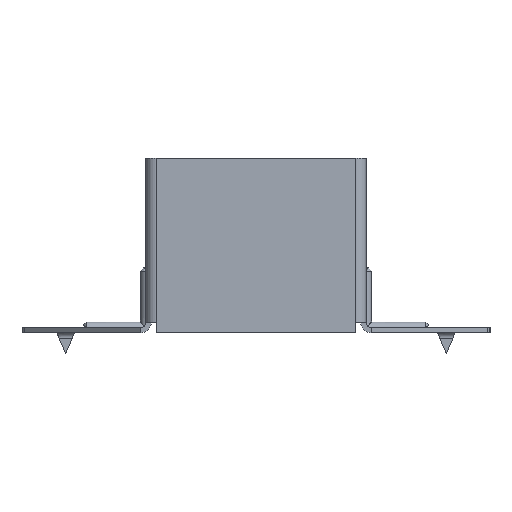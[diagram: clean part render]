
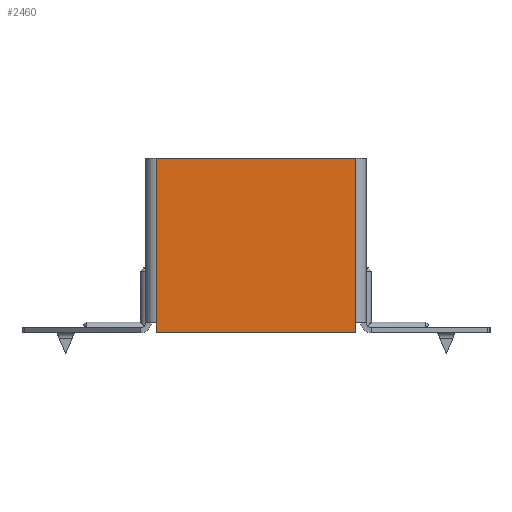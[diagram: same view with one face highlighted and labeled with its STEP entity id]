
A CAD part, front view. The second image highlights one B-rep face of the part: STEP entity #2460.
In plain terms, the highlighted planar face has unit normal (0, -1, 0).
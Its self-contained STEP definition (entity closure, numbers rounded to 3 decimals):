
#22 = ORIENTED_EDGE ( 'NONE', *, *, #15098, .T. ) ;
#111 = LINE ( 'NONE', #5006, #16929 ) ;
#215 = DIRECTION ( 'NONE',  ( 0., 1., 0. ) ) ;
#1195 = CARTESIAN_POINT ( 'NONE',  ( -28.5, 0., -20. ) ) ;
#1802 = DIRECTION ( 'NONE',  ( 0., 0., -1. ) ) ;
#1851 = VECTOR ( 'NONE', #1802, 1000. ) ;
#2460 = ADVANCED_FACE ( 'NONE', ( #13205 ), #9856, .F. ) ;
#2519 = CARTESIAN_POINT ( 'NONE',  ( -28.5, 0., 0. ) ) ;
#2962 = VERTEX_POINT ( 'NONE', #1195 ) ;
#3075 = CARTESIAN_POINT ( 'NONE',  ( 0., 0., 0. ) ) ;
#3179 = DIRECTION ( 'NONE',  ( 0., 0., 1. ) ) ;
#3195 = EDGE_LOOP ( 'NONE', ( #22, #4165, #13328, #3834, #6785, #8585 ) ) ;
#3352 = LINE ( 'NONE', #11461, #8284 ) ;
#3618 = VECTOR ( 'NONE', #3179, 1000. ) ;
#3766 = CARTESIAN_POINT ( 'NONE',  ( 28.5, 0., -70. ) ) ;
#3834 = ORIENTED_EDGE ( 'NONE', *, *, #18534, .F. ) ;
#3975 = DIRECTION ( 'NONE',  ( 0., 0., -1. ) ) ;
#4165 = ORIENTED_EDGE ( 'NONE', *, *, #18176, .T. ) ;
#4566 = CARTESIAN_POINT ( 'NONE',  ( 28.5, 0., -70. ) ) ;
#4922 = EDGE_CURVE ( 'NONE', #11799, #15132, #111, .T. ) ;
#4971 = AXIS2_PLACEMENT_3D ( 'NONE', #3075, #215, #14505 ) ;
#5006 = CARTESIAN_POINT ( 'NONE',  ( 28.5, 0., -70. ) ) ;
#5104 = LINE ( 'NONE', #2519, #13161 ) ;
#6785 = ORIENTED_EDGE ( 'NONE', *, *, #4922, .T. ) ;
#7427 = LINE ( 'NONE', #13130, #9930 ) ;
#7876 = EDGE_CURVE ( 'NONE', #15575, #15154, #5104, .T. ) ;
#8284 = VECTOR ( 'NONE', #12789, 1000. ) ;
#8585 = ORIENTED_EDGE ( 'NONE', *, *, #13907, .T. ) ;
#8929 = DIRECTION ( 'NONE',  ( -1., 0., 0. ) ) ;
#9263 = DIRECTION ( 'NONE',  ( 0., 0., 1. ) ) ;
#9856 = PLANE ( 'NONE',  #4971 ) ;
#9930 = VECTOR ( 'NONE', #8929, 1000. ) ;
#11412 = CARTESIAN_POINT ( 'NONE',  ( 28.5, 0., -67. ) ) ;
#11461 = CARTESIAN_POINT ( 'NONE',  ( 0., 0., -20. ) ) ;
#11799 = VERTEX_POINT ( 'NONE', #3766 ) ;
#12718 = CARTESIAN_POINT ( 'NONE',  ( -28.5, 0., -67. ) ) ;
#12789 = DIRECTION ( 'NONE',  ( -1., 0., 0. ) ) ;
#12825 = LINE ( 'NONE', #14546, #1851 ) ;
#12850 = CARTESIAN_POINT ( 'NONE',  ( -28.5, 0., -70. ) ) ;
#13130 = CARTESIAN_POINT ( 'NONE',  ( -30., 0., -70. ) ) ;
#13161 = VECTOR ( 'NONE', #3975, 1000. ) ;
#13205 = FACE_OUTER_BOUND ( 'NONE', #3195, .T. ) ;
#13328 = ORIENTED_EDGE ( 'NONE', *, *, #7876, .T. ) ;
#13907 = EDGE_CURVE ( 'NONE', #15132, #16893, #14393, .T. ) ;
#14097 = CARTESIAN_POINT ( 'NONE',  ( 28.5, 0., -20. ) ) ;
#14393 = LINE ( 'NONE', #4566, #3618 ) ;
#14505 = DIRECTION ( 'NONE',  ( 0., 0., 1. ) ) ;
#14546 = CARTESIAN_POINT ( 'NONE',  ( -28.5, 0., 0. ) ) ;
#15098 = EDGE_CURVE ( 'NONE', #16893, #2962, #3352, .T. ) ;
#15132 = VERTEX_POINT ( 'NONE', #11412 ) ;
#15154 = VERTEX_POINT ( 'NONE', #12850 ) ;
#15575 = VERTEX_POINT ( 'NONE', #12718 ) ;
#16893 = VERTEX_POINT ( 'NONE', #14097 ) ;
#16929 = VECTOR ( 'NONE', #9263, 1000. ) ;
#18176 = EDGE_CURVE ( 'NONE', #2962, #15575, #12825, .T. ) ;
#18534 = EDGE_CURVE ( 'NONE', #11799, #15154, #7427, .T. ) ;
